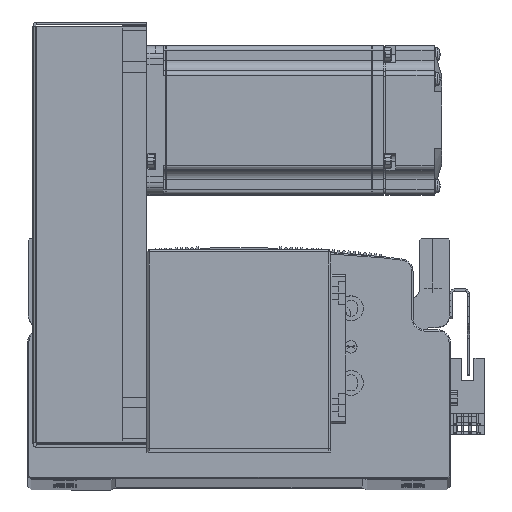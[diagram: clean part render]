
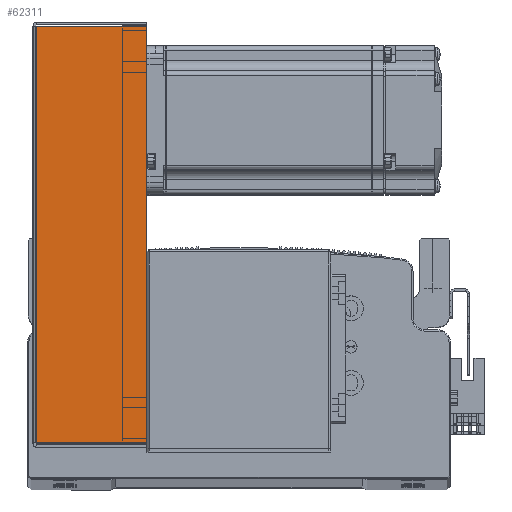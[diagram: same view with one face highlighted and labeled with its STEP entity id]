
A CAD part, top view. The second image highlights one B-rep face of the part: STEP entity #62311.
In plain terms, the highlighted planar face has unit normal (0, 0, 1) as drawn and (0, 0, -1) by its records, which use the part's own axes.
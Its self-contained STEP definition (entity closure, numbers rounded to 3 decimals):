
#14175 = FACE_OUTER_BOUND ( 'NONE', #38413, .T. ) ;
#15136 = PLANE ( 'NONE',  #32400 ) ;
#15142 = DIRECTION ( 'NONE',  ( 0., 0., 1. ) ) ;
#15153 = CARTESIAN_POINT ( 'NONE',  ( 0., 0., -40.5 ) ) ;
#15166 = DIRECTION ( 'NONE',  ( 0., -1., 0. ) ) ;
#29770 = ORIENTED_EDGE ( 'NONE', *, *, #39755, .F. ) ;
#29855 = ORIENTED_EDGE ( 'NONE', *, *, #39748, .T. ) ;
#32400 = AXIS2_PLACEMENT_3D ( 'NONE', #15153, #15142, #15166 ) ;
#33303 = VERTEX_POINT ( 'NONE', #86390 ) ;
#33320 = VERTEX_POINT ( 'NONE', #86356 ) ;
#33324 = VERTEX_POINT ( 'NONE', #86353 ) ;
#33347 = VERTEX_POINT ( 'NONE', #86439 ) ;
#35001 = ORIENTED_EDGE ( 'NONE', *, *, #39720, .T. ) ;
#35093 = ORIENTED_EDGE ( 'NONE', *, *, #39728, .F. ) ;
#38413 = EDGE_LOOP ( 'NONE', ( #29770, #29855, #35001, #35093 ) ) ;
#39720 = EDGE_CURVE ( 'NONE', #33324, #33347, #81228, .T. ) ;
#39728 = EDGE_CURVE ( 'NONE', #33320, #33347, #81222, .T. ) ;
#39748 = EDGE_CURVE ( 'NONE', #33303, #33324, #81277, .T. ) ;
#39755 = EDGE_CURVE ( 'NONE', #33303, #33320, #81285, .T. ) ;
#62311 = ADVANCED_FACE ( 'NONE', ( #14175 ), #15136, .F. ) ;
#81214 = VECTOR ( 'NONE', #84263, 1000. ) ;
#81222 = LINE ( 'NONE', #84329, #81270 ) ;
#81228 = LINE ( 'NONE', #84279, #81214 ) ;
#81270 = VECTOR ( 'NONE', #84350, 1000. ) ;
#81276 = VECTOR ( 'NONE', #84372, 1000. ) ;
#81277 = LINE ( 'NONE', #84355, #81276 ) ;
#81285 = LINE ( 'NONE', #84363, #81332 ) ;
#81332 = VECTOR ( 'NONE', #83846, 1000. ) ;
#83846 = DIRECTION ( 'NONE',  ( 1., 0., 0. ) ) ;
#84263 = DIRECTION ( 'NONE',  ( 1., 0., 0. ) ) ;
#84279 = CARTESIAN_POINT ( 'NONE',  ( 84.5, 45., -40.5 ) ) ;
#84329 = CARTESIAN_POINT ( 'NONE',  ( 83.793, 0., -40.5 ) ) ;
#84350 = DIRECTION ( 'NONE',  ( 0., 1., 0. ) ) ;
#84355 = CARTESIAN_POINT ( 'NONE',  ( -83.793, 0., -40.5 ) ) ;
#84363 = CARTESIAN_POINT ( 'NONE',  ( 0., 0.737, -40.5 ) ) ;
#84372 = DIRECTION ( 'NONE',  ( 0., 1., 0. ) ) ;
#86353 = CARTESIAN_POINT ( 'NONE',  ( -83.793, 45., -40.5 ) ) ;
#86356 = CARTESIAN_POINT ( 'NONE',  ( 83.793, 0.737, -40.5 ) ) ;
#86390 = CARTESIAN_POINT ( 'NONE',  ( -83.793, 0.737, -40.5 ) ) ;
#86439 = CARTESIAN_POINT ( 'NONE',  ( 83.793, 45., -40.5 ) ) ;
